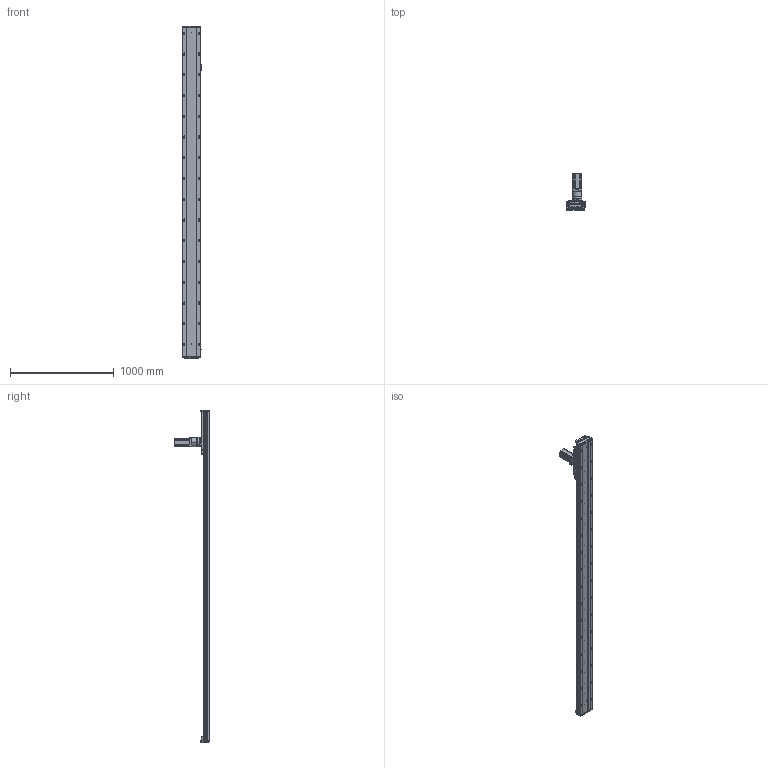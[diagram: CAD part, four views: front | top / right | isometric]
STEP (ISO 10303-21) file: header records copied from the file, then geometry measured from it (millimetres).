
FILE_DESCRIPTION (( 'STEP AP203' ), '1' );
FILE_NAME ('RY170-C-1000-UK.SLDASM_2700.step', '2021-03-03T00:47:55', ( '盈信电脑' ), ( '东莞市道滘镇水果街19号' ), 'SwSTEP 2.0', 'SolidWorks 2012', '' );
FILE_SCHEMA (( 'CONFIG_CONTROL_DESIGN' ));
Products named in the file (13): RY170-C-1000-UK.SLDASM_2700; RY170-喘沭滅袉蝶輸; RY170-喘沭賑輸; 左旋斜齿齿轮_M2_22齿_内孔20; TF080等撰; 覜茼ん672; RY170外置感应片(200共用）; 怢湛750W萇儂ㄗ80遺ㄘ; RY170-喘謫萇儂覃誹啣; 絳寢賑輸EGH20CA; RY170-1000-喘沭耀郪絳寢EGH20CA_2700; RY170綴裔啣ㄗ蜊秶ㄘ; RY170-1000齿条模组型材底座_2700
Assembly tree (22 placements, depth 2):
  RY170-C-1000-UK.SLDASM_2700
    RY170-1000齿条模组型材底座_2700
    絳寢賑輸EGH20CA  x6
    RY170-1000-喘沭耀郪絳寢EGH20CA_2700  x2
    RY170綴裔啣ㄗ蜊秶ㄘ  x2
    覜茼ん672  x3
    RY170外置感应片(200共用）
    RY170-喘謫萇儂覃誹啣
    怢湛750W萇儂ㄗ80遺ㄘ
    RY170-喘沭滅袉蝶輸  x2
    TF080等撰
    左旋斜齿齿轮_M2_22齿_内孔20
    RY170-喘沭賑輸
Bounding box: 188.7 x 343.5 x 3200 mm (x, y, z)
Volume: 16317950.2 mm3; surface area: 4179664.5 mm2
Topology: 24 solids, 24 shells, 4741 faces, 13402 edges, 8553 vertices
Faces by surface type: plane 2235, cylinder 2066, cone 386, bspline 50, torus 4
Entity records: 108870 total; most frequent: CARTESIAN_POINT 26239, ORIENTED_EDGE 17334, DIRECTION 16714, EDGE_CURVE 8667, AXIS2_PLACEMENT_3D 6215, VERTEX_POINT 5635, VECTOR 4284, LINE 4284
